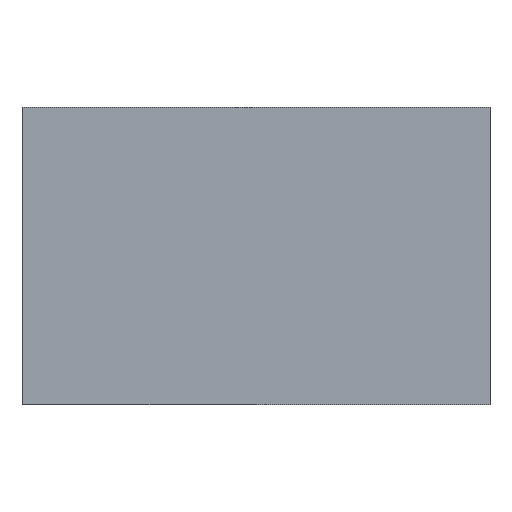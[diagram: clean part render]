
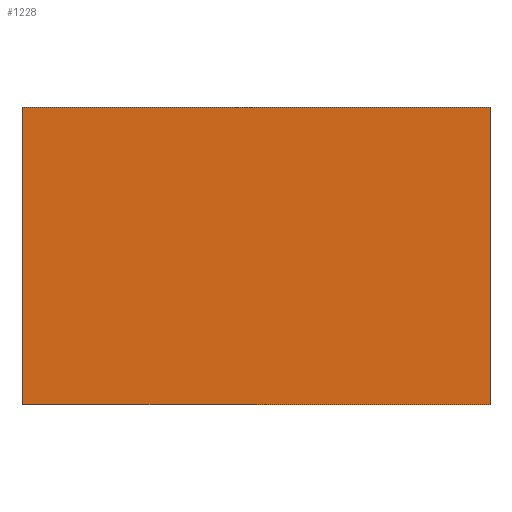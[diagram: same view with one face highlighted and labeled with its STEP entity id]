
A CAD part, top view. The second image highlights one B-rep face of the part: STEP entity #1228.
In plain terms, the highlighted planar face has unit normal (0, 0, 1).
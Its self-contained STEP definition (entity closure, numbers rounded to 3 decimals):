
#4 = CARTESIAN_POINT ( 'NONE',  ( 0., 0., 18. ) ) ;
#18 = LINE ( 'NONE', #929, #566 ) ;
#237 = EDGE_CURVE ( 'NONE', #1480, #933, #684, .T. ) ;
#250 = CARTESIAN_POINT ( 'NONE',  ( -848., -539., 18. ) ) ;
#360 = VECTOR ( 'NONE', #1385, 1000. ) ;
#414 = VECTOR ( 'NONE', #1590, 1000. ) ;
#541 = EDGE_CURVE ( 'NONE', #614, #1417, #1870, .T. ) ;
#566 = VECTOR ( 'NONE', #1115, 1000. ) ;
#592 = CARTESIAN_POINT ( 'NONE',  ( -848., 539., 18. ) ) ;
#614 = VERTEX_POINT ( 'NONE', #1469 ) ;
#684 = LINE ( 'NONE', #1978, #1094 ) ;
#766 = LINE ( 'NONE', #250, #360 ) ;
#825 = PLANE ( 'NONE',  #1339 ) ;
#929 = CARTESIAN_POINT ( 'NONE',  ( -848., 539., 18. ) ) ;
#933 = VERTEX_POINT ( 'NONE', #977 ) ;
#958 = CARTESIAN_POINT ( 'NONE',  ( 848., 539., 18. ) ) ;
#977 = CARTESIAN_POINT ( 'NONE',  ( -848., -539., 18. ) ) ;
#1089 = ORIENTED_EDGE ( 'NONE', *, *, #541, .T. ) ;
#1094 = VECTOR ( 'NONE', #1632, 1000. ) ;
#1115 = DIRECTION ( 'NONE',  ( -1., 0., 0. ) ) ;
#1168 = EDGE_LOOP ( 'NONE', ( #2009, #1646, #1089, #1190 ) ) ;
#1190 = ORIENTED_EDGE ( 'NONE', *, *, #1701, .T. ) ;
#1228 = ADVANCED_FACE ( 'NONE', ( #1732 ), #825, .T. ) ;
#1339 = AXIS2_PLACEMENT_3D ( 'NONE', #4, #1743, #1607 ) ;
#1385 = DIRECTION ( 'NONE',  ( 1., 0., 0. ) ) ;
#1417 = VERTEX_POINT ( 'NONE', #1633 ) ;
#1469 = CARTESIAN_POINT ( 'NONE',  ( 848., -539., 18. ) ) ;
#1480 = VERTEX_POINT ( 'NONE', #592 ) ;
#1550 = EDGE_CURVE ( 'NONE', #933, #614, #766, .T. ) ;
#1590 = DIRECTION ( 'NONE',  ( 0., 1., 0. ) ) ;
#1607 = DIRECTION ( 'NONE',  ( 1., 0., 0. ) ) ;
#1632 = DIRECTION ( 'NONE',  ( 0., -1., 0. ) ) ;
#1633 = CARTESIAN_POINT ( 'NONE',  ( 848., 539., 18. ) ) ;
#1646 = ORIENTED_EDGE ( 'NONE', *, *, #1550, .T. ) ;
#1701 = EDGE_CURVE ( 'NONE', #1417, #1480, #18, .T. ) ;
#1732 = FACE_OUTER_BOUND ( 'NONE', #1168, .T. ) ;
#1743 = DIRECTION ( 'NONE',  ( 0., 0., 1. ) ) ;
#1870 = LINE ( 'NONE', #958, #414 ) ;
#1978 = CARTESIAN_POINT ( 'NONE',  ( -848., 539., 18. ) ) ;
#2009 = ORIENTED_EDGE ( 'NONE', *, *, #237, .T. ) ;
